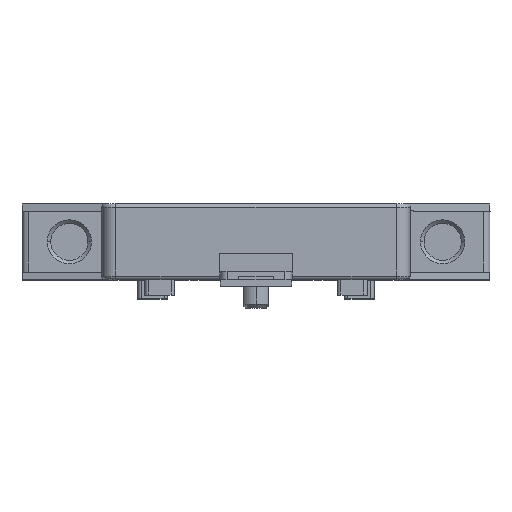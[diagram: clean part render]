
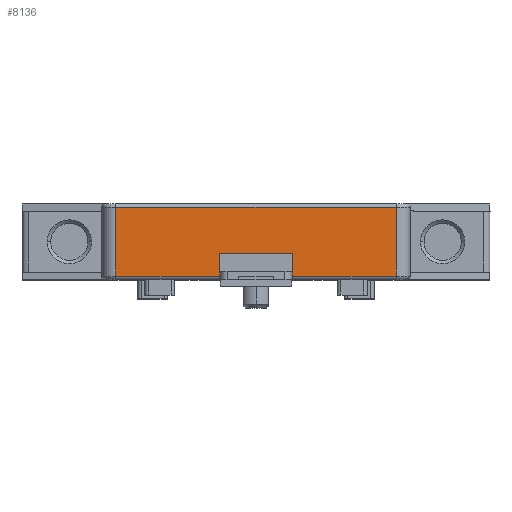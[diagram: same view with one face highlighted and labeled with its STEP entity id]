
A CAD part, top view. The second image highlights one B-rep face of the part: STEP entity #8136.
In plain terms, the highlighted planar face has unit normal (0, 0, 1).
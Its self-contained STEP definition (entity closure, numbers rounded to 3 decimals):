
#1026 = EDGE_CURVE ( 'NONE', #14447, #21802, #7320, .T. ) ;
#1421 = VECTOR ( 'NONE', #7636, 1000. ) ;
#1833 = LINE ( 'NONE', #8745, #17616 ) ;
#2148 = LINE ( 'NONE', #17728, #16517 ) ;
#2491 = DIRECTION ( 'NONE',  ( 1., 0., 0. ) ) ;
#4402 = ORIENTED_EDGE ( 'NONE', *, *, #1026, .F. ) ;
#4916 = CARTESIAN_POINT ( 'NONE',  ( 8.3, 271.375, 57.5 ) ) ;
#4952 = ORIENTED_EDGE ( 'NONE', *, *, #18574, .T. ) ;
#5653 = EDGE_CURVE ( 'NONE', #20345, #12800, #8721, .T. ) ;
#6672 = DIRECTION ( 'NONE',  ( 0., -1., 0. ) ) ;
#6765 = VERTEX_POINT ( 'NONE', #7957 ) ;
#7320 = LINE ( 'NONE', #10746, #11805 ) ;
#7636 = DIRECTION ( 'NONE',  ( 0., -1., 0. ) ) ;
#7957 = CARTESIAN_POINT ( 'NONE',  ( 23.4, 271.375, 57.5 ) ) ;
#8136 = ADVANCED_FACE ( 'NONE', ( #17452 ), #15746, .F. ) ;
#8397 = ORIENTED_EDGE ( 'NONE', *, *, #12175, .F. ) ;
#8431 = LINE ( 'NONE', #10371, #13971 ) ;
#8721 = LINE ( 'NONE', #8836, #10158 ) ;
#8745 = CARTESIAN_POINT ( 'NONE',  ( 8.3, 271.375, 57.5 ) ) ;
#8836 = CARTESIAN_POINT ( 'NONE',  ( 3., 281.375, 57.5 ) ) ;
#10158 = VECTOR ( 'NONE', #17275, 1000. ) ;
#10193 = VERTEX_POINT ( 'NONE', #18849 ) ;
#10371 = CARTESIAN_POINT ( 'NONE',  ( 8.3, 277.375, 57.5 ) ) ;
#10629 = CARTESIAN_POINT ( 'NONE',  ( -2.3, 274.675, 57.5 ) ) ;
#10746 = CARTESIAN_POINT ( 'NONE',  ( 3., 274.675, 57.5 ) ) ;
#10926 = DIRECTION ( 'NONE',  ( 0., 1., 0. ) ) ;
#11259 = LINE ( 'NONE', #19682, #22466 ) ;
#11781 = EDGE_LOOP ( 'NONE', ( #22023, #16858, #16248, #17242, #4952, #8397, #4402, #22146 ) ) ;
#11805 = VECTOR ( 'NONE', #17686, 1000. ) ;
#12175 = EDGE_CURVE ( 'NONE', #21802, #13480, #14701, .T. ) ;
#12441 = EDGE_CURVE ( 'NONE', #6765, #20345, #11259, .T. ) ;
#12559 = CARTESIAN_POINT ( 'NONE',  ( 3., 275.375, 57.5 ) ) ;
#12800 = VERTEX_POINT ( 'NONE', #13142 ) ;
#13142 = CARTESIAN_POINT ( 'NONE',  ( -17.4, 281.375, 57.5 ) ) ;
#13480 = VERTEX_POINT ( 'NONE', #16829 ) ;
#13507 = CARTESIAN_POINT ( 'NONE',  ( -17.4, 275.375, 57.5 ) ) ;
#13971 = VECTOR ( 'NONE', #17316, 1000. ) ;
#14447 = VERTEX_POINT ( 'NONE', #17321 ) ;
#14701 = LINE ( 'NONE', #19704, #1421 ) ;
#15053 = VECTOR ( 'NONE', #6672, 1000. ) ;
#15746 = PLANE ( 'NONE',  #21159 ) ;
#16248 = ORIENTED_EDGE ( 'NONE', *, *, #5653, .T. ) ;
#16517 = VECTOR ( 'NONE', #2491, 1000. ) ;
#16829 = CARTESIAN_POINT ( 'NONE',  ( -2.3, 271.375, 57.5 ) ) ;
#16858 = ORIENTED_EDGE ( 'NONE', *, *, #12441, .T. ) ;
#17242 = ORIENTED_EDGE ( 'NONE', *, *, #20790, .T. ) ;
#17275 = DIRECTION ( 'NONE',  ( -1., 0., 0. ) ) ;
#17316 = DIRECTION ( 'NONE',  ( 0., 1., 0. ) ) ;
#17321 = CARTESIAN_POINT ( 'NONE',  ( 8.3, 274.675, 57.5 ) ) ;
#17452 = FACE_OUTER_BOUND ( 'NONE', #11781, .T. ) ;
#17616 = VECTOR ( 'NONE', #20922, 1000. ) ;
#17686 = DIRECTION ( 'NONE',  ( -1., 0., 0. ) ) ;
#17728 = CARTESIAN_POINT ( 'NONE',  ( -2.3, 271.375, 57.5 ) ) ;
#18574 = EDGE_CURVE ( 'NONE', #10193, #13480, #2148, .T. ) ;
#18731 = DIRECTION ( 'NONE',  ( 0., 0., -1. ) ) ;
#18849 = CARTESIAN_POINT ( 'NONE',  ( -17.4, 271.375, 57.5 ) ) ;
#19157 = DIRECTION ( 'NONE',  ( 0., -1., 0. ) ) ;
#19682 = CARTESIAN_POINT ( 'NONE',  ( 23.4, 275.375, 57.5 ) ) ;
#19704 = CARTESIAN_POINT ( 'NONE',  ( -2.3, 277.375, 57.5 ) ) ;
#20345 = VERTEX_POINT ( 'NONE', #21709 ) ;
#20457 = VERTEX_POINT ( 'NONE', #4916 ) ;
#20531 = EDGE_CURVE ( 'NONE', #20457, #14447, #8431, .T. ) ;
#20790 = EDGE_CURVE ( 'NONE', #12800, #10193, #21815, .T. ) ;
#20918 = EDGE_CURVE ( 'NONE', #20457, #6765, #1833, .T. ) ;
#20922 = DIRECTION ( 'NONE',  ( 1., 0., 0. ) ) ;
#21159 = AXIS2_PLACEMENT_3D ( 'NONE', #12559, #18731, #19157 ) ;
#21709 = CARTESIAN_POINT ( 'NONE',  ( 23.4, 281.375, 57.5 ) ) ;
#21802 = VERTEX_POINT ( 'NONE', #10629 ) ;
#21815 = LINE ( 'NONE', #13507, #15053 ) ;
#22023 = ORIENTED_EDGE ( 'NONE', *, *, #20918, .T. ) ;
#22146 = ORIENTED_EDGE ( 'NONE', *, *, #20531, .F. ) ;
#22466 = VECTOR ( 'NONE', #10926, 1000. ) ;
